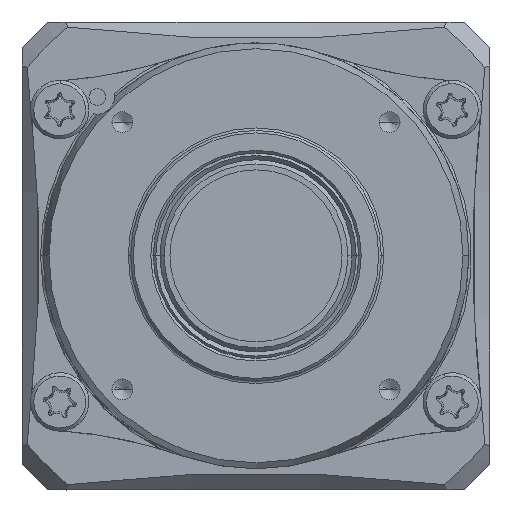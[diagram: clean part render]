
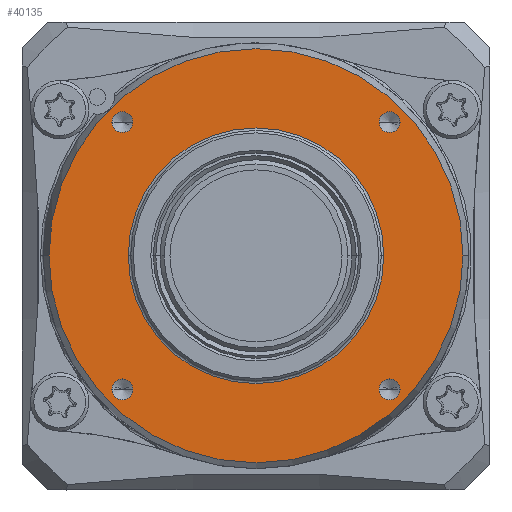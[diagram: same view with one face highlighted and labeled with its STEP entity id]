
A CAD part, top view. The second image highlights one B-rep face of the part: STEP entity #40135.
In plain terms, the highlighted planar face has unit normal (0, 0, 1).
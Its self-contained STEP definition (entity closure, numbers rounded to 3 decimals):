
#793 = AXIS2_PLACEMENT_3D ( 'NONE', #28481, #13190, #19586 ) ;
#1076 = DIRECTION ( 'NONE',  ( 0., 0., 1. ) ) ;
#1393 = EDGE_CURVE ( 'NONE', #29652, #20605, #38416, .T. ) ;
#1553 = ORIENTED_EDGE ( 'NONE', *, *, #3957, .F. ) ;
#1634 = CIRCLE ( 'NONE', #7699, 15.3 ) ;
#1751 = EDGE_CURVE ( 'NONE', #5864, #12642, #15002, .T. ) ;
#1863 = CARTESIAN_POINT ( 'NONE',  ( -24.791, 0., 7.2 ) ) ;
#2129 = DIRECTION ( 'NONE',  ( 1., 0., 0. ) ) ;
#2599 = DIRECTION ( 'NONE',  ( -1., 0., 0. ) ) ;
#3355 = CARTESIAN_POINT ( 'NONE',  ( -16., 16., 7.2 ) ) ;
#3368 = CARTESIAN_POINT ( 'NONE',  ( 14.75, -16., 7.2 ) ) ;
#3957 = EDGE_CURVE ( 'NONE', #20605, #29652, #34172, .T. ) ;
#3979 = EDGE_LOOP ( 'NONE', ( #27460, #26889 ) ) ;
#4185 = AXIS2_PLACEMENT_3D ( 'NONE', #24725, #37699, #34562 ) ;
#5064 = DIRECTION ( 'NONE',  ( 1., 0., 0. ) ) ;
#5288 = DIRECTION ( 'NONE',  ( -1., 0., 0. ) ) ;
#5823 = VERTEX_POINT ( 'NONE', #3368 ) ;
#5864 = VERTEX_POINT ( 'NONE', #20751 ) ;
#5873 = EDGE_LOOP ( 'NONE', ( #32463, #28356 ) ) ;
#5950 = VERTEX_POINT ( 'NONE', #1863 ) ;
#6428 = FACE_BOUND ( 'NONE', #41577, .T. ) ;
#6500 = DIRECTION ( 'NONE',  ( 0., 0., -1. ) ) ;
#6980 = EDGE_CURVE ( 'NONE', #37058, #34944, #20379, .T. ) ;
#7189 = CARTESIAN_POINT ( 'NONE',  ( 0., 0., 7.2 ) ) ;
#7352 = CIRCLE ( 'NONE', #16838, 15.3 ) ;
#7510 = CARTESIAN_POINT ( 'NONE',  ( -17.25, -16., 7.2 ) ) ;
#7699 = AXIS2_PLACEMENT_3D ( 'NONE', #35416, #6500, #5288 ) ;
#8047 = ORIENTED_EDGE ( 'NONE', *, *, #18983, .F. ) ;
#8060 = CIRCLE ( 'NONE', #34362, 24.791 ) ;
#8238 = DIRECTION ( 'NONE',  ( 0., 0., 1. ) ) ;
#8300 = EDGE_CURVE ( 'NONE', #39726, #5823, #27835, .T. ) ;
#8742 = CARTESIAN_POINT ( 'NONE',  ( 14.75, 16., 7.2 ) ) ;
#8925 = AXIS2_PLACEMENT_3D ( 'NONE', #37850, #40827, #2599 ) ;
#9120 = AXIS2_PLACEMENT_3D ( 'NONE', #31701, #34858, #2129 ) ;
#9794 = CIRCLE ( 'NONE', #9120, 1.25 ) ;
#10143 = ORIENTED_EDGE ( 'NONE', *, *, #1393, .F. ) ;
#10153 = DIRECTION ( 'NONE',  ( 1., 0., 0. ) ) ;
#10305 = CARTESIAN_POINT ( 'NONE',  ( 17.25, -16., 7.2 ) ) ;
#10468 = EDGE_CURVE ( 'NONE', #34944, #37058, #36849, .T. ) ;
#10793 = ORIENTED_EDGE ( 'NONE', *, *, #11396, .T. ) ;
#10823 = DIRECTION ( 'NONE',  ( 1., 0., 0. ) ) ;
#11029 = DIRECTION ( 'NONE',  ( 0., 0., 1. ) ) ;
#11396 = EDGE_CURVE ( 'NONE', #5950, #13204, #19563, .T. ) ;
#11455 = EDGE_CURVE ( 'NONE', #13204, #5950, #8060, .T. ) ;
#11609 = CARTESIAN_POINT ( 'NONE',  ( 24.791, 0., 7.2 ) ) ;
#11998 = VERTEX_POINT ( 'NONE', #21965 ) ;
#12147 = AXIS2_PLACEMENT_3D ( 'NONE', #3355, #41788, #29375 ) ;
#12183 = CARTESIAN_POINT ( 'NONE',  ( -16., -16., 7.2 ) ) ;
#12319 = FACE_BOUND ( 'NONE', #29968, .T. ) ;
#12642 = VERTEX_POINT ( 'NONE', #8742 ) ;
#12809 = DIRECTION ( 'NONE',  ( 0., 0., 1. ) ) ;
#13190 = DIRECTION ( 'NONE',  ( 0., 0., 1. ) ) ;
#13204 = VERTEX_POINT ( 'NONE', #11609 ) ;
#13746 = CARTESIAN_POINT ( 'NONE',  ( 0., 0., 7.2 ) ) ;
#14126 = CARTESIAN_POINT ( 'NONE',  ( -14.75, -16., 7.2 ) ) ;
#14790 = DIRECTION ( 'NONE',  ( 0., 0., 1. ) ) ;
#14922 = AXIS2_PLACEMENT_3D ( 'NONE', #12183, #12809, #28942 ) ;
#15002 = CIRCLE ( 'NONE', #4185, 1.25 ) ;
#15409 = CIRCLE ( 'NONE', #30287, 1.25 ) ;
#15614 = EDGE_LOOP ( 'NONE', ( #10793, #40058 ) ) ;
#15695 = DIRECTION ( 'NONE',  ( 0., 0., -1. ) ) ;
#15745 = FACE_BOUND ( 'NONE', #3979, .T. ) ;
#15955 = FACE_OUTER_BOUND ( 'NONE', #15614, .T. ) ;
#15972 = AXIS2_PLACEMENT_3D ( 'NONE', #21023, #11029, #10823 ) ;
#16194 = AXIS2_PLACEMENT_3D ( 'NONE', #13746, #38854, #32332 ) ;
#16838 = AXIS2_PLACEMENT_3D ( 'NONE', #31107, #15695, #34878 ) ;
#18383 = ORIENTED_EDGE ( 'NONE', *, *, #10468, .F. ) ;
#18983 = EDGE_CURVE ( 'NONE', #12642, #5864, #15409, .T. ) ;
#19470 = EDGE_CURVE ( 'NONE', #11998, #21493, #7352, .T. ) ;
#19563 = CIRCLE ( 'NONE', #16194, 24.791 ) ;
#19586 = DIRECTION ( 'NONE',  ( 1., 0., 0. ) ) ;
#20379 = CIRCLE ( 'NONE', #14922, 1.25 ) ;
#20605 = VERTEX_POINT ( 'NONE', #38493 ) ;
#20751 = CARTESIAN_POINT ( 'NONE',  ( 17.25, 16., 7.2 ) ) ;
#21023 = CARTESIAN_POINT ( 'NONE',  ( -16., 16., 7.2 ) ) ;
#21192 = DIRECTION ( 'NONE',  ( 1., 0., 0. ) ) ;
#21493 = VERTEX_POINT ( 'NONE', #37651 ) ;
#21965 = CARTESIAN_POINT ( 'NONE',  ( -15.3, 0., 7.2 ) ) ;
#22760 = AXIS2_PLACEMENT_3D ( 'NONE', #33989, #14790, #5064 ) ;
#23601 = CARTESIAN_POINT ( 'NONE',  ( -14.75, 16., 7.2 ) ) ;
#24361 = CARTESIAN_POINT ( 'NONE',  ( 16., 16., 7.2 ) ) ;
#24725 = CARTESIAN_POINT ( 'NONE',  ( 16., 16., 7.2 ) ) ;
#25090 = FACE_BOUND ( 'NONE', #33100, .T. ) ;
#25435 = EDGE_CURVE ( 'NONE', #21493, #11998, #1634, .T. ) ;
#25500 = PLANE ( 'NONE',  #8925 ) ;
#26313 = EDGE_CURVE ( 'NONE', #5823, #39726, #9794, .T. ) ;
#26889 = ORIENTED_EDGE ( 'NONE', *, *, #25435, .T. ) ;
#27460 = ORIENTED_EDGE ( 'NONE', *, *, #19470, .T. ) ;
#27835 = CIRCLE ( 'NONE', #793, 1.25 ) ;
#28356 = ORIENTED_EDGE ( 'NONE', *, *, #26313, .F. ) ;
#28414 = ORIENTED_EDGE ( 'NONE', *, *, #1751, .F. ) ;
#28481 = CARTESIAN_POINT ( 'NONE',  ( 16., -16., 7.2 ) ) ;
#28942 = DIRECTION ( 'NONE',  ( 1., 0., 0. ) ) ;
#29375 = DIRECTION ( 'NONE',  ( 1., 0., 0. ) ) ;
#29652 = VERTEX_POINT ( 'NONE', #23601 ) ;
#29968 = EDGE_LOOP ( 'NONE', ( #28414, #8047 ) ) ;
#30287 = AXIS2_PLACEMENT_3D ( 'NONE', #24361, #8238, #21192 ) ;
#31107 = CARTESIAN_POINT ( 'NONE',  ( 0., 0., 7.2 ) ) ;
#31701 = CARTESIAN_POINT ( 'NONE',  ( 16., -16., 7.2 ) ) ;
#32332 = DIRECTION ( 'NONE',  ( 1., 0., 0. ) ) ;
#32463 = ORIENTED_EDGE ( 'NONE', *, *, #8300, .F. ) ;
#32733 = ORIENTED_EDGE ( 'NONE', *, *, #6980, .F. ) ;
#33100 = EDGE_LOOP ( 'NONE', ( #10143, #1553 ) ) ;
#33989 = CARTESIAN_POINT ( 'NONE',  ( -16., -16., 7.2 ) ) ;
#34172 = CIRCLE ( 'NONE', #15972, 1.25 ) ;
#34362 = AXIS2_PLACEMENT_3D ( 'NONE', #7189, #1076, #10153 ) ;
#34562 = DIRECTION ( 'NONE',  ( 1., 0., 0. ) ) ;
#34858 = DIRECTION ( 'NONE',  ( 0., 0., 1. ) ) ;
#34878 = DIRECTION ( 'NONE',  ( -1., 0., 0. ) ) ;
#34944 = VERTEX_POINT ( 'NONE', #7510 ) ;
#35416 = CARTESIAN_POINT ( 'NONE',  ( 0., 0., 7.2 ) ) ;
#36849 = CIRCLE ( 'NONE', #22760, 1.25 ) ;
#37058 = VERTEX_POINT ( 'NONE', #14126 ) ;
#37651 = CARTESIAN_POINT ( 'NONE',  ( 15.3, 0., 7.2 ) ) ;
#37699 = DIRECTION ( 'NONE',  ( 0., 0., 1. ) ) ;
#37850 = CARTESIAN_POINT ( 'NONE',  ( 0., 15., 7.2 ) ) ;
#38416 = CIRCLE ( 'NONE', #12147, 1.25 ) ;
#38493 = CARTESIAN_POINT ( 'NONE',  ( -17.25, 16., 7.2 ) ) ;
#38854 = DIRECTION ( 'NONE',  ( 0., 0., 1. ) ) ;
#39726 = VERTEX_POINT ( 'NONE', #10305 ) ;
#40058 = ORIENTED_EDGE ( 'NONE', *, *, #11455, .T. ) ;
#40135 = ADVANCED_FACE ( 'NONE', ( #15745, #25090, #12319, #41456, #6428, #15955 ), #25500, .F. ) ;
#40827 = DIRECTION ( 'NONE',  ( 0., 0., -1. ) ) ;
#41456 = FACE_BOUND ( 'NONE', #5873, .T. ) ;
#41577 = EDGE_LOOP ( 'NONE', ( #32733, #18383 ) ) ;
#41788 = DIRECTION ( 'NONE',  ( 0., 0., 1. ) ) ;
